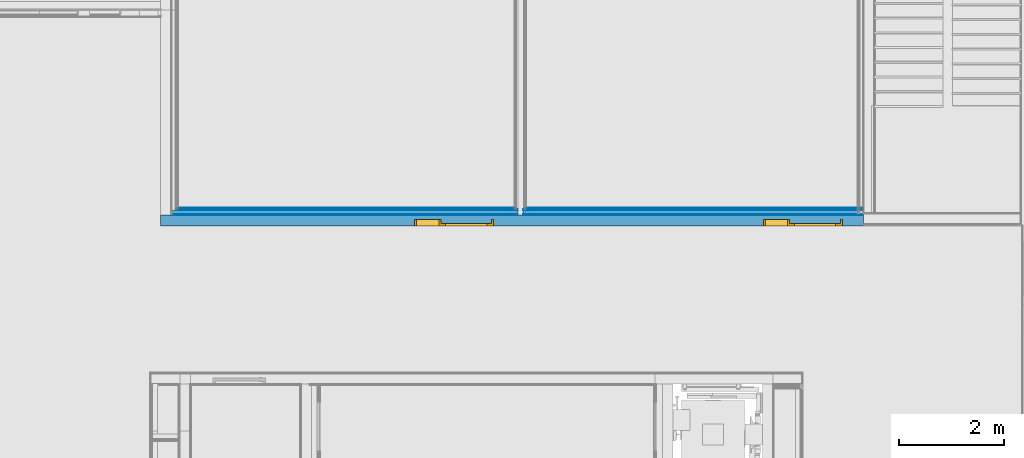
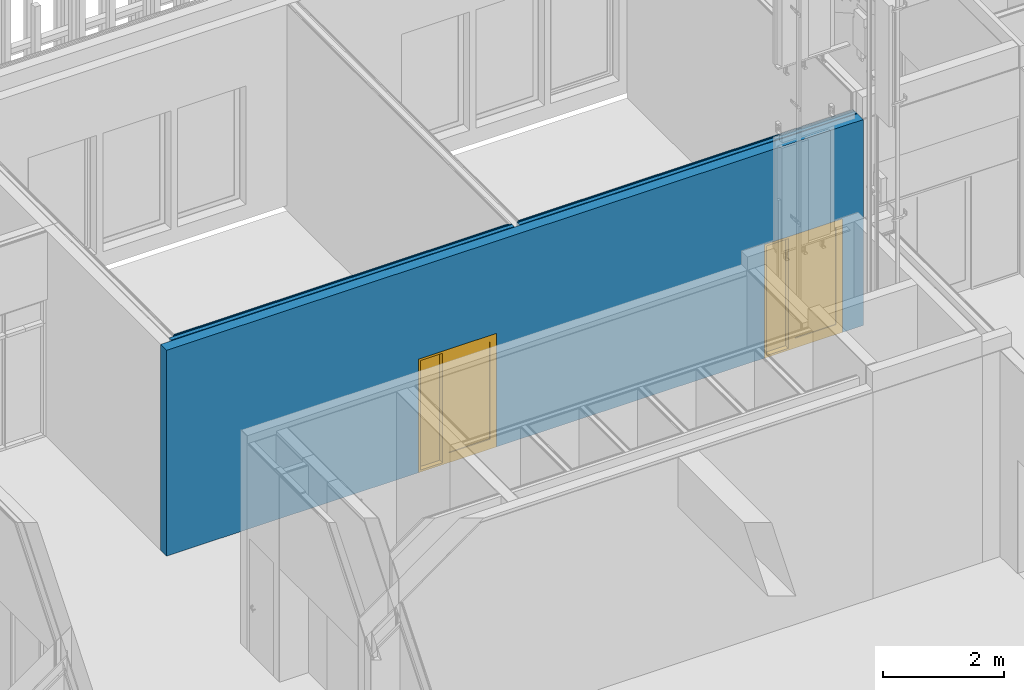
# One storey, part 116 of 260: 7 building element parts, 2 doors, 2 openings, 1 element without a shape of its own.
"""IFC2X3 building model written with IfcOpenShell, lengths in millimetres."""

import ifcopenshell
import ifcopenshell.guid

model = None  # the IFC model being written
_history = None  # IfcOwnerHistory: only IFC2X3 demands one
_inside = {}  # id of a spatial element -> (the spatial element, [elements in it])
_under = {}  # id of a project, library or spatial element -> (it, [spatial elements below it])
_declared = {}  # id of a project -> (the project, [libraries it declares])
_typed = {}  # id of a type object -> (the type object, [elements of that type])
_made_of = {}  # id of a material, layer set ... -> (it, [elements and type objects made of it])


def new_model(schema):
    """Start an empty IFC model of exactly this schema.

    Asked for "IFC4X3", IfcOpenShell would pick the latest addendum, in which some entities
    have other attributes; the version numbers below select the first issue.
    IFC2X3 requires an IfcOwnerHistory on every rooted entity: one is made here for all.
    """
    global model, _history
    if schema == "IFC4X3":
        model = ifcopenshell.file(schema_version=(4, 3, 0, 0))
    else:
        model = ifcopenshell.file(schema=schema)
    _inside.clear()
    _under.clear()
    _declared.clear()
    _typed.clear()
    _made_of.clear()
    _history = None
    if model.schema == "IFC2X3":
        org = make("IfcOrganization", Name="unknown")
        user = make(
            "IfcPersonAndOrganization",
            ThePerson=make("IfcPerson", FamilyName="unknown"),
            TheOrganization=org,
        )
        app = make(
            "IfcApplication",
            ApplicationDeveloper=org,
            Version="unknown",
            ApplicationFullName="unknown",
            ApplicationIdentifier="unknown",
        )
        _history = make(
            "IfcOwnerHistory",
            OwningUser=user,
            OwningApplication=app,
            ChangeAction="ADDED",
            CreationDate=0,
        )
    return model


def make(cls, **values):
    """One entity of the class cls with the attributes given. An attribute that is None is left unset."""
    return model.create_entity(
        cls, **{name: value for name, value in values.items() if value is not None}
    )


def entity(cls, *values):
    """Any entity or typed value of the class cls, its attributes in the order of the schema. None: left unset."""
    e = model.create_entity(cls)
    for i, value in enumerate(values):
        if value is not None:
            e[i] = value
    return e


def rooted(cls, **values):
    """An entity with a GlobalId (a new one), such as an element, a storey or a relation."""
    return make(cls, GlobalId=ifcopenshell.guid.new(), OwnerHistory=_history, **values)


def si_unit(unit_type, name, prefix=None):
    """IfcSIUnit, for example si_unit("LENGTHUNIT", "METRE", prefix="MILLI")."""
    return make("IfcSIUnit", UnitType=unit_type, Prefix=prefix, Name=name)


def converted_unit(unit_type, name, factor, base, dimensions=None, offset=None):
    """IfcConversionBasedUnit, such as the inch: factor (a typed value) times the base unit."""
    return make(
        "IfcConversionBasedUnit"
        if offset is None
        else "IfcConversionBasedUnitWithOffset",
        ConversionOffset=offset,
        Dimensions=None
        if dimensions is None
        else entity("IfcDimensionalExponents", *dimensions),
        UnitType=unit_type,
        Name=name,
        ConversionFactor=make(
            "IfcMeasureWithUnit", ValueComponent=factor, UnitComponent=base
        ),
    )


def derived_unit(unit_type, elements):
    """IfcDerivedUnit: a product of units, each with its exponent."""
    return make(
        "IfcDerivedUnit",
        Elements=[
            make("IfcDerivedUnitElement", Unit=unit, Exponent=power)
            for unit, power in elements
        ],
        UnitType=unit_type,
    )


def money_unit(currency):
    """IfcMonetaryUnit."""
    return make("IfcMonetaryUnit", Currency=currency)


def assignment(units):
    """IfcUnitAssignment: the units of a project."""
    return None if units is None else make("IfcUnitAssignment", Units=units)


def point(xyz):
    """IfcCartesianPoint."""
    return None if xyz is None else make("IfcCartesianPoint", Coordinates=xyz)


def direction(xyz):
    """IfcDirection."""
    return None if xyz is None else make("IfcDirection", DirectionRatios=xyz)


def frame(location, z_axis=None, x_axis=None):
    """IfcAxis2Placement3D, a coordinate frame: its origin and axes. An axis left out is left unset."""
    return make(
        "IfcAxis2Placement3D",
        Location=point(location),
        Axis=direction(z_axis),
        RefDirection=direction(x_axis),
    )


def origin_with_axes():
    """The frame at (0, 0, 0) with the z axis (0, 0, 1) and the x axis (1, 0, 0) written out."""
    return frame((0.0, 0.0, 0.0), z_axis=(0.0, 0.0, 1.0), x_axis=(1.0, 0.0, 0.0))


def place(relative_to, where):
    """IfcLocalPlacement: puts the frame where relative to a parent placement (None: the world)."""
    return make(
        "IfcLocalPlacement", PlacementRelTo=relative_to, RelativePlacement=where
    )


def context(
    kind, dimensions, precision=None, world=None, true_north=None, identifier=None
):
    """IfcGeometricRepresentationContext, for example the 3D "Model" context."""
    return make(
        "IfcGeometricRepresentationContext",
        ContextIdentifier=identifier,
        ContextType=kind,
        CoordinateSpaceDimension=dimensions,
        Precision=precision,
        WorldCoordinateSystem=world,
        TrueNorth=true_north,
    )


def subcontext(parent, identifier, kind, view, scale=None):
    """IfcGeometricRepresentationSubContext, for example "Body" below "Model"."""
    return make(
        "IfcGeometricRepresentationSubContext",
        ContextIdentifier=identifier,
        ContextType=kind,
        ParentContext=parent,
        TargetScale=scale,
        TargetView=view,
    )


def project(units=None, contexts=None):
    """IfcProject with its units and contexts."""
    return rooted(
        "IfcProject",
        Name="project",
        RepresentationContexts=contexts,
        UnitsInContext=assignment(units),
    )


def spatial(cls, under=None, at=None, **own):
    """A site, building, storey or space (cls), placed at a placement, below another one or the project."""
    s = rooted(cls, ObjectPlacement=at, **own)
    if under is not None:
        _under.setdefault(under.id(), (under, []))[1].append(s)
    return s


def faces_of(points, faces, orient=None, outer=None):
    """IfcFace entities. A face is a list of loops; a loop is a list of indices into points, from 0.

    orient and outer hold one flag for each loop. By default every Orientation is true, the
    first loop of a face is its IfcFaceOuterBound and the others are IfcFaceBound.
    """
    made = []
    for i, loops in enumerate(faces):
        bounds = []
        for j, loop in enumerate(loops):
            is_outer = j == 0 if outer is None else outer[i][j]
            bounds.append(
                make(
                    "IfcFaceOuterBound" if is_outer else "IfcFaceBound",
                    Bound=make("IfcPolyLoop", Polygon=[points[k] for k in loop]),
                    Orientation=True if orient is None else orient[i][j],
                )
            )
        made.append(make("IfcFace", Bounds=bounds))
    return made


def open_shell(faces, orient=None, outer=None):
    """The faces of one IfcOpenShell. surface_model builds it on its shared points."""
    return ("IfcOpenShell", faces, orient, outer)


def faceted_brep(points, faces, orient=None, outer=None, voids=None):
    """IfcFacetedBrep: a solid bounded by flat faces; with voids (closed shells), ...WithVoids."""
    shared = [point(p) for p in points]
    hull = make("IfcClosedShell", CfsFaces=faces_of(shared, faces, orient, outer))
    if voids is None:
        return make("IfcFacetedBrep", Outer=hull)
    return make(
        "IfcFacetedBrepWithVoids",
        Outer=hull,
        Voids=[
            make(cls, CfsFaces=faces_of(shared, fs, o, b)) for cls, fs, o, b in voids
        ],
    )


def surface_model(cls, points, shells):
    """IfcFaceBasedSurfaceModel or IfcShellBasedSurfaceModel (cls): surfaces that need not close."""
    shared = [point(p) for p in points]
    made = [make(c, CfsFaces=faces_of(shared, fs, o, b)) for c, fs, o, b in shells]
    if cls == "IfcFaceBasedSurfaceModel":
        return make(cls, FbsmFaces=made)
    return make(cls, SbsmBoundary=made)


def shape(context_of_items, identifier, shape_type, items):
    """IfcShapeRepresentation: the items that make up one representation, for example the "Body"."""
    return make(
        "IfcShapeRepresentation",
        ContextOfItems=context_of_items,
        RepresentationIdentifier=identifier,
        RepresentationType=shape_type,
        Items=items,
    )


def source(mapping_origin, context_of_items, identifier, shape_type, items):
    """IfcRepresentationMap: a shape defined once, which mapped items show again and again."""
    return make(
        "IfcRepresentationMap",
        MappingOrigin=mapping_origin,
        MappedRepresentation=shape(context_of_items, identifier, shape_type, items),
    )


def transform(
    local_origin,
    x_axis=None,
    y_axis=None,
    z_axis=None,
    scale=None,
    scale2=None,
    scale3=None,
    uniform=True,
):
    """IfcCartesianTransformationOperator3D, or its non-uniform kind. x_axis, y_axis, z_axis: its Axis1, 2, 3."""
    if uniform:
        return make(
            "IfcCartesianTransformationOperator3D",
            Axis1=direction(x_axis),
            Axis2=direction(y_axis),
            LocalOrigin=point(local_origin),
            Scale=scale,
            Axis3=direction(z_axis),
        )
    return make(
        "IfcCartesianTransformationOperator3DnonUniform",
        Axis1=direction(x_axis),
        Axis2=direction(y_axis),
        LocalOrigin=point(local_origin),
        Scale=scale,
        Axis3=direction(z_axis),
        Scale2=scale2,
        Scale3=scale3,
    )


def mapped(mapping_source, mapping_target):
    """IfcMappedItem: shows the shape of a source again, moved by a transform."""
    return make(
        "IfcMappedItem", MappingSource=mapping_source, MappingTarget=mapping_target
    )


def material(Name=None, Category=None):
    """IfcMaterial."""
    return make("IfcMaterial", Name=Name, Category=Category)


def made_of(thing, what):
    """Note that an element or type object is made of a material, layer set ...; save() writes the relation."""
    if what is not None:
        _made_of.setdefault(what.id(), (what, []))[1].append(thing)
    return thing


def type_object(cls, material=None, **own):
    """A type object (cls), such as IfcWallType, which elements share."""
    return made_of(rooted(cls, **own), material)


def element(
    cls,
    number,
    at=None,
    inside=None,
    cuts=None,
    type_object=None,
    material=None,
    context=None,
    identifier="Body",
    shape_type=None,
    held_by="IfcProductDefinitionShape",
    body=None,
    shapes=None,
    **own,
):
    """One element of the class cls, such as IfcWall. Its Tag is "e" and its number.

    at: its placement. inside: the storey or other place that contains it. cuts: it is an
    opening in that element (IfcRelVoidsElement). A single representation is given by context,
    identifier, shape_type and body (its items); several are given by shapes. held_by: the class
    of the entity that holds the representations. save() writes the other relations.
    """
    e = rooted(cls, Tag="e%d" % number, ObjectPlacement=at, **own)
    if body is not None:
        shapes = [shape(context, identifier, shape_type, body)]
    if shapes is not None:
        e.Representation = make(held_by, Representations=shapes)
    if inside is not None:
        _inside.setdefault(inside.id(), (inside, []))[1].append(e)
    if cuts is not None:
        rooted(
            "IfcRelVoidsElement", RelatingBuildingElement=cuts, RelatedOpeningElement=e
        )
    if type_object is not None:
        _typed.setdefault(type_object.id(), (type_object, []))[1].append(e)
    return made_of(e, material)


def fill(opening, filler):
    """IfcRelFillsElement: the door or window that sits in an opening."""
    return rooted(
        "IfcRelFillsElement",
        RelatingOpeningElement=opening,
        RelatedBuildingElement=filler,
    )


def aggregate(whole, parts):
    """IfcRelAggregates: a whole, such as a stair, and the parts it consists of."""
    return rooted("IfcRelAggregates", RelatingObject=whole, RelatedObjects=parts)


def save(model, path):
    """Write the relations noted so far, then the file.

    IfcRelAggregates (storeys below a building ...), IfcRelContainedInSpatialStructure (elements
    in a storey), IfcRelDefinesByType, IfcRelAssociatesMaterial and IfcRelDeclares: one each for
    every whole, place, type object, material and project.
    """
    for whole, parts in _under.values():
        aggregate(whole, parts)
    for where, things in _inside.values():
        rooted(
            "IfcRelContainedInSpatialStructure",
            RelatedElements=things,
            RelatingStructure=where,
        )
    for kind, things in _typed.values():
        rooted("IfcRelDefinesByType", RelatedObjects=things, RelatingType=kind)
    for what, things in _made_of.values():
        rooted("IfcRelAssociatesMaterial", RelatedObjects=things, RelatingMaterial=what)
    for by, libraries in _declared.values():
        rooted("IfcRelDeclares", RelatingContext=by, RelatedDefinitions=libraries)
    model.write(path)


model = new_model("IFC2X3")

# Units and contexts
model_context = context("Model", 3, precision=0.01, world=origin_with_axes(), true_north=direction((0.0, 1.0)))
body_context = subcontext(model_context, "Body", "Model", "MODEL_VIEW")
ifc_project = project(units=[si_unit("LENGTHUNIT", "METRE", prefix="MILLI"), si_unit("AREAUNIT", "SQUARE_METRE"), si_unit("VOLUMEUNIT", "CUBIC_METRE"), converted_unit("PLANEANGLEUNIT", "DEGREE", entity("IfcPlaneAngleMeasure", 0.0174532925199), si_unit("PLANEANGLEUNIT", "RADIAN"), dimensions=[0, 0, 0, 0, 0, 0, 0]), money_unit("EUR"), converted_unit("TIMEUNIT", "Year", entity("IfcTimeMeasure", 31556926.0), si_unit("TIMEUNIT", "SECOND"), dimensions=[0, 0, 1, 0, 0, 0, 0]), si_unit("MASSUNIT", "GRAM", prefix="KILO"), si_unit("THERMODYNAMICTEMPERATUREUNIT", "DEGREE_CELSIUS"), si_unit("LUMINOUSINTENSITYUNIT", "LUMEN"), si_unit("ENERGYUNIT", "JOULE", prefix="MEGA"), derived_unit("THERMALCONDUCTANCEUNIT", [(si_unit("POWERUNIT", "WATT"), 1), (si_unit("LENGTHUNIT", "METRE"), -1), (si_unit("THERMODYNAMICTEMPERATUREUNIT", "KELVIN"), -1)]), derived_unit("SPECIFICHEATCAPACITYUNIT", [(si_unit("ENERGYUNIT", "JOULE"), 1), (si_unit("MASSUNIT", "GRAM", prefix="KILO"), -1), (si_unit("THERMODYNAMICTEMPERATUREUNIT", "KELVIN"), -1)]), derived_unit("MASSDENSITYUNIT", [(si_unit("MASSUNIT", "GRAM", prefix="KILO"), 1), (si_unit("VOLUMEUNIT", "CUBIC_METRE"), -1)])], contexts=[model_context])

# Site, building, storey
site_placement = place(None, origin_with_axes())
site = spatial("IfcSite", under=ifc_project, at=site_placement, Name="Kolde pst 67a", CompositionType="ELEMENT")
building_placement = place(site_placement, origin_with_axes())
building = spatial("IfcBuilding", under=site, at=building_placement, Name="Riigigümnaasium", CompositionType="ELEMENT")
storey_placement = place(building_placement, origin_with_axes())
storey = spatial("IfcBuildingStorey", under=building, at=storey_placement, Name="1. korrus", CompositionType="ELEMENT", Elevation=0.0)

# Door
door_style = type_object("IfcDoorStyle", Name="Door with Sidelight on Side 2 25", ConstructionType="NOTDEFINED", OperationType="SINGLE_SWING_LEFT", ParameterTakesPrecedence=False, Sizeable=False)
shared_shape = source(origin_with_axes(), body_context, "Body", "SurfaceModel", [
    faceted_brep([(750.0, 0.0, 0.0), (750.0, -115.0, 0.0), (710.0, -115.0, 0.0), (710.0, 0.0, 0.0), (750.0, 0.0, 2260.0), (750.0, -115.0, 2260.0), (710.0, -115.0, 2260.0), (710.0, -115.0, 40.0), (710.0, 0.0, 40.0), (710.0, 0.0, 2260.0)], [[[0, 1, 2, 3]], [[4, 5, 1, 0]], [[1, 5, 6, 7, 2]], [[3, 2, 7, 8]], [[0, 3, 8, 9, 4]], [[9, 6, 5, 4]], [[8, 7, 6, 9]]]),
    faceted_brep([(250.0, -40.0, 0.0), (250.0, -115.0, 0.0), (250.0, -115.0, 2260.0), (250.0, -40.0, 2260.0), (262.0, -40.0, 0.0), (262.0, 0.0, 0.0), (290.0, 0.0, 0.0), (290.0, -115.0, 0.0), (290.0, -115.0, 40.0), (290.0, -115.0, 2260.0), (262.0, -40.0, 2260.0), (290.0, 0.0, 2260.0), (262.0, 0.0, 2260.0), (290.0, 0.0, 40.0)], [[[0, 1, 2, 3]], [[4, 5, 6, 7, 1, 0]], [[7, 8, 9, 2, 1]], [[10, 3, 2, 9, 11, 12]], [[10, 4, 0, 3]], [[12, 5, 4, 10]], [[12, 11, 13, 6, 5]], [[6, 13, 8, 7]], [[13, 11, 9, 8]]]),
    faceted_brep([(710.0, 0.0, 40.0), (710.0, -115.0, 40.0), (710.0, -115.0, 0.0), (710.0, 0.0, 0.0), (290.0, 0.0, 40.0), (290.0, -115.0, 40.0), (290.0, -115.0, 0.0), (290.0, 0.0, 0.0)], [[[0, 1, 2, 3]], [[4, 5, 1, 0]], [[1, 5, 6, 2]], [[3, 2, 6, 7]], [[0, 3, 7, 4]], [[7, 6, 5, 4]]]),
    faceted_brep([(-722.0, -40.0, 2260.0), (-722.0, 0.0, 2260.0), (-750.0, 0.0, 2260.0), (-750.0, -115.0, 2260.0), (-710.0, -115.0, 2260.0), (-710.0, -40.0, 2260.0), (-722.0, -40.0, 0.0), (-722.0, 0.0, 0.0), (-750.0, 0.0, 0.0), (-750.0, -115.0, 0.0), (-710.0, -115.0, 0.0), (-710.0, -40.0, 0.0)], [[[0, 1, 2, 3, 4, 5]], [[0, 6, 7, 1]], [[7, 8, 2, 1]], [[2, 8, 9, 3]], [[3, 9, 10, 4]], [[5, 4, 10, 11]], [[5, 11, 6, 0]], [[6, 11, 10, 9, 8, 7]]]),
    faceted_brep([(262.0, 0.0, 2272.0), (-722.0, 0.0, 2272.0), (-722.0, 0.0, 2260.0), (-750.0, 0.0, 2260.0), (-750.0, 0.0, 2300.0), (750.0, 0.0, 2300.0), (750.0, 0.0, 2260.0), (710.0, 0.0, 2260.0), (290.0, 0.0, 2260.0), (262.0, 0.0, 2260.0), (262.0, -40.0, 2272.0), (-722.0, -40.0, 2272.0), (-722.0, -40.0, 2260.0), (-710.0, -40.0, 2260.0), (-710.0, -115.0, 2260.0), (-750.0, -115.0, 2260.0), (-750.0, -115.0, 2300.0), (750.0, -115.0, 2300.0), (750.0, -115.0, 2260.0), (710.0, -115.0, 2260.0), (290.0, -115.0, 2260.0), (262.0, -40.0, 2260.0), (250.0, -115.0, 2260.0)], [[[0, 1, 2, 3, 4, 5, 6, 7, 8, 9]], [[0, 10, 11, 1]], [[1, 11, 12, 2]], [[12, 13, 14, 15, 3, 2]], [[4, 3, 15, 16]], [[5, 4, 16, 17]], [[6, 5, 17, 18]], [[7, 6, 18, 19]], [[8, 7, 19, 20]], [[21, 9, 8, 20, 22, 14, 13]], [[9, 21, 10, 0]], [[12, 11, 10, 21, 13]], [[14, 22, 20, 19, 18, 17, 16, 15]]]),
    faceted_brep([(-722.0, 0.0, 200.0), (-622.0, 0.0, 200.0), (-622.0, -40.0, 200.0), (-722.0, -40.0, 200.0), (-722.0, 0.0, 2172.0), (-622.0, 0.0, 2172.0), (-622.0, -40.0, 2172.0), (-722.0, -40.0, 2172.0)], [[[0, 1, 2, 3]], [[0, 4, 5, 1]], [[1, 5, 6, 2]], [[3, 2, 6, 7]], [[4, 0, 3, 7]], [[5, 4, 7, 6]]]),
    faceted_brep([(262.0, 0.0, 200.0), (262.0, 0.0, 2172.0), (262.0, -40.0, 2172.0), (262.0, -40.0, 200.0), (162.0, 0.0, 200.0), (162.0, 0.0, 2172.0), (162.0, -40.0, 2172.0), (162.0, -40.0, 200.0)], [[[0, 1, 2, 3]], [[0, 4, 5, 1]], [[1, 5, 6, 2]], [[3, 2, 6, 7]], [[4, 0, 3, 7]], [[5, 4, 7, 6]]]),
    faceted_brep([(-722.0, 0.0, 0.0), (262.0, 0.0, 0.0), (262.0, -40.0, 0.0), (-722.0, -40.0, 0.0), (-722.0, 0.0, 200.0), (-622.0, 0.0, 200.0), (162.0, 0.0, 200.0), (262.0, 0.0, 200.0), (262.0, -40.0, 200.0), (162.0, -40.0, 200.0), (-622.0, -40.0, 200.0), (-722.0, -40.0, 200.0)], [[[0, 1, 2, 3]], [[0, 4, 5, 6, 7, 1]], [[1, 7, 8, 2]], [[3, 2, 8, 9, 10, 11]], [[4, 0, 3, 11]], [[5, 4, 11, 10]], [[6, 5, 10, 9]], [[7, 6, 9, 8]]]),
    faceted_brep([(-722.0, 0.0, 2272.0), (-722.0, 0.0, 2172.0), (-722.0, -40.0, 2172.0), (-722.0, -40.0, 2272.0), (262.0, 0.0, 2272.0), (262.0, 0.0, 2172.0), (162.0, 0.0, 2172.0), (-622.0, 0.0, 2172.0), (-622.0, -40.0, 2172.0), (162.0, -40.0, 2172.0), (262.0, -40.0, 2172.0), (262.0, -40.0, 2272.0)], [[[0, 1, 2, 3]], [[0, 4, 5, 6, 7, 1]], [[1, 7, 8, 2]], [[3, 2, 8, 9, 10, 11]], [[4, 0, 3, 11]], [[5, 4, 11, 10]], [[6, 5, 10, 9]], [[7, 6, 9, 8]]]),
    surface_model("IfcShellBasedSurfaceModel", [(-622.0, -14.0, 200.0), (-622.0, -14.0, 2172.0), (162.0, -14.0, 2172.0), (162.0, -14.0, 200.0)], [open_shell([[[0, 1, 2, 3]]])]),
    surface_model("IfcShellBasedSurfaceModel", [(-622.0, -26.0, 200.0), (162.0, -26.0, 200.0), (162.0, -26.0, 2172.0), (-622.0, -26.0, 2172.0)], [open_shell([[[0, 1, 2, 3]]])]),
    surface_model("IfcShellBasedSurfaceModel", [(710.0, -91.0, 40.0), (290.0, -91.0, 40.0), (290.0, -91.0, 2260.0), (710.0, -91.0, 2260.0)], [open_shell([[[0, 1, 2, 3]]])]),
    surface_model("IfcShellBasedSurfaceModel", [(710.0, -103.0, 40.0), (710.0, -103.0, 2260.0), (290.0, -103.0, 2260.0), (290.0, -103.0, 40.0)], [open_shell([[[0, 1, 2, 3]]])]),
])
wall_placement = place(storey_placement, frame((36239.99923, 52580.0001843, 0.0), z_axis=(0.0, 0.0, 1.0), x_axis=(1.0, 0.0, 0.0)))
opening_1_placement = place(wall_placement, frame((5575.0, 0.0, 0.0), z_axis=(0.0, 0.0, 1.0), x_axis=(1.0, 0.0, 0.0)))
door_1_placement = place(opening_1_placement, frame((750.0, 0.0, 0.0), z_axis=(0.0, 0.0, 1.0), x_axis=(-1.0, 0.0, 0.0)))
door_1 = element("IfcDoor", 1, at=door_1_placement, inside=storey, type_object=door_style, Name="Siseuks", ObjectType="DOOR", OverallHeight=2300.0, OverallWidth=1500.0, context=body_context, shape_type="MappedRepresentation", body=[
    mapped(shared_shape, transform((750.0, 0.0, 0.0))),
])

opening_2_placement = place(wall_placement, frame((12200.0108255, 0.0, 0.0), z_axis=(0.0, 0.0, 1.0), x_axis=(1.0, 0.0, 0.0)))
door_2_placement = place(opening_2_placement, frame((750.0, 0.0, 0.0), z_axis=(0.0, 0.0, 1.0), x_axis=(-1.0, 0.0, 0.0)))
door_2 = element("IfcDoor", 2, at=door_2_placement, inside=storey, type_object=door_style, Name="Siseuks", ObjectType="DOOR", OverallHeight=2300.0, OverallWidth=1500.0, context=body_context, shape_type="MappedRepresentation", body=[
    mapped(shared_shape, transform((750.0, 0.0, 0.0))),
])

# Wall, opening
wall_type = type_object("IfcWallType", Name="SS-CLT-20/1_vill+krohv 340", PredefinedType="NOTDEFINED")
wall = element("IfcWall", 3, at=wall_placement, inside=storey, type_object=wall_type, Name="Sisesein")
opening_1 = element("IfcOpeningElement", 4, at=opening_1_placement, cuts=wall, Name="Siseuks", context=body_context, shape_type="Brep", body=[
    faceted_brep([(750.0, -680.0, 2300.0), (750.0, -680.0, 0.0), (750.0, 340.0, 0.0), (750.0, 340.0, 2300.0), (-750.0, -680.0, 2300.0), (-750.0, -680.0, 0.0), (-750.0, 340.0, 0.0), (-750.0, 340.0, 2300.0)], [[[0, 1, 2, 3]], [[0, 4, 5, 1]], [[1, 5, 6, 2]], [[3, 2, 6, 7]], [[4, 0, 3, 7]], [[5, 4, 7, 6]]]),
])

fill(opening_1, door_1)

# Opening
opening_2 = element("IfcOpeningElement", 5, at=opening_2_placement, cuts=wall, Name="Siseuks", context=body_context, shape_type="Brep", body=[
    faceted_brep([(750.0, -680.0, 2300.0), (750.0, -680.0, 0.0), (750.0, 340.0, 0.0), (750.0, 340.0, 2300.0), (-750.0, -680.0, 2300.0), (-750.0, -680.0, 0.0), (-750.0, 340.0, 0.0), (-750.0, 340.0, 2300.0)], [[[0, 1, 2, 3]], [[0, 4, 5, 1]], [[1, 5, 6, 2]], [[3, 2, 6, 7]], [[4, 0, 3, 7]], [[5, 4, 7, 6]]]),
])

fill(opening_2, door_2)

# Building element part
ifc_material_1 = material(Name="_VIIMISTLUSKIHT - viimistlus vastavalt SA osale")
building_element_part_1_placement = place(wall_placement, origin_with_axes())
building_element_part_1 = element("IfcBuildingElementPart", 6, at=building_element_part_1_placement, material=ifc_material_1, Name="_VIIMISTLUSKIHT - viimistlus vastavalt SA osale", context=body_context, shape_type="Brep", body=[
    faceted_brep([(11450.0108255, 340.0, 2300.0), (11450.0108255, 340.0, 0.0), (6940.0, 340.0, 0.0), (6940.0, 340.0, 4170.0), (13350.0108255, 340.0, 4170.0), (13350.0108255, 340.0, 0.0), (12950.0108255, 340.0, 0.0), (12950.0108255, 340.0, 2300.0), (11450.0108255, 330.0, 2300.0), (11450.0108255, 330.0, 0.0), (6940.0, 330.0, 0.0), (6940.0, 330.0, 4170.0), (13350.0108255, 330.0, 4170.0), (13350.0108255, 330.0, 0.0), (12950.0108255, 330.0, 0.0), (12950.0108255, 330.0, 2300.0)], [[[0, 1, 2, 3, 4, 5, 6, 7]], [[1, 0, 8, 9]], [[1, 9, 10, 2]], [[3, 2, 10, 11]], [[4, 3, 11, 12]], [[12, 13, 5, 4]], [[14, 6, 5, 13]], [[7, 6, 14, 15]], [[0, 7, 15, 8]], [[15, 14, 13, 12, 11, 10, 9, 8]]]),
    faceted_brep([(4825.0, 340.0, 2300.0), (4825.0, 340.0, 0.0), (330.0, 340.0, 0.0), (330.0, 340.0, 4170.0), (6730.0, 340.0, 4170.0), (6730.0, 340.0, 0.0), (6325.0, 340.0, 0.0), (6325.0, 340.0, 2300.0), (4825.0, 330.0, 2300.0), (4825.0, 330.0, 0.0), (330.0, 330.0, 0.0), (330.0, 330.0, 4170.0), (6730.0, 330.0, 4170.0), (6730.0, 330.0, 0.0), (6325.0, 330.0, 0.0), (6325.0, 330.0, 2300.0)], [[[0, 1, 2, 3, 4, 5, 6, 7]], [[1, 0, 8, 9]], [[1, 9, 10, 2]], [[3, 2, 10, 11]], [[4, 3, 11, 12]], [[12, 13, 5, 4]], [[14, 6, 5, 13]], [[7, 6, 14, 15]], [[0, 7, 15, 8]], [[15, 14, 13, 12, 11, 10, 9, 8]]]),
])

ifc_material_2 = material(Name="_PLAATMATERJAL - tuletõkkekipsplaat, Knauf Red GKF või samaväärne")
building_element_part_2_placement = place(wall_placement, origin_with_axes())
building_element_part_2 = element("IfcBuildingElementPart", 7, at=building_element_part_2_placement, material=ifc_material_2, Name="_PLAATMATERJAL - tuletõkkekipsplaat, Knauf Red GKF või samaväärne", context=body_context, shape_type="Brep", body=[
    faceted_brep([(11450.0108255, 330.0, 2300.0), (11450.0108255, 330.0, 0.0), (6925.0, 330.0, 0.0), (6925.0, 330.0, 4170.0), (13350.0108255, 330.0, 4170.0), (13350.0108255, 330.0, 0.0), (12950.0108255, 330.0, 0.0), (12950.0108255, 330.0, 2300.0), (11450.0108255, 315.0, 2300.0), (11450.0108255, 315.0, 0.0), (6925.0, 315.0, 0.0), (6925.0, 315.0, 4170.0), (13350.0108255, 315.0, 4170.0), (13350.0108255, 315.0, 0.0), (12950.0108255, 315.0, 0.0), (12950.0108255, 315.0, 2300.0)], [[[0, 1, 2, 3, 4, 5, 6, 7]], [[1, 0, 8, 9]], [[1, 9, 10, 2]], [[3, 2, 10, 11]], [[4, 3, 11, 12]], [[12, 13, 5, 4]], [[14, 6, 5, 13]], [[7, 6, 14, 15]], [[0, 7, 15, 8]], [[15, 14, 13, 12, 11, 10, 9, 8]]]),
    faceted_brep([(4825.0, 330.0, 2300.0), (4825.0, 330.0, 0.0), (315.0, 330.0, 0.0), (315.0, 330.0, 4170.0), (6745.0, 330.0, 4170.0), (6745.0, 330.0, 0.0), (6325.0, 330.0, 0.0), (6325.0, 330.0, 2300.0), (4825.0, 315.0, 2300.0), (4825.0, 315.0, 0.0), (315.0, 315.0, 0.0), (315.0, 315.0, 4170.0), (6745.0, 315.0, 4170.0), (6745.0, 315.0, 0.0), (6325.0, 315.0, 0.0), (6325.0, 315.0, 2300.0)], [[[0, 1, 2, 3, 4, 5, 6, 7]], [[1, 0, 8, 9]], [[1, 9, 10, 2]], [[3, 2, 10, 11]], [[4, 3, 11, 12]], [[12, 13, 5, 4]], [[14, 6, 5, 13]], [[7, 6, 14, 15]], [[0, 7, 15, 8]], [[15, 14, 13, 12, 11, 10, 9, 8]]]),
])

building_element_part_3_placement = place(wall_placement, origin_with_axes())
building_element_part_3 = element("IfcBuildingElementPart", 8, at=building_element_part_3_placement, material=ifc_material_2, Name="_PLAATMATERJAL - tuletõkkekipsplaat, Knauf Red GKF või samaväärne", context=body_context, shape_type="Brep", body=[
    faceted_brep([(11450.0108255, 315.0, 2300.0), (11450.0108255, 315.0, 0.0), (6885.0, 315.0, 0.0), (6885.0, 315.0, 4170.0), (13350.0108255, 315.0, 4170.0), (13350.0108255, 315.0, 0.0), (12950.0108255, 315.0, 0.0), (12950.0108255, 315.0, 2300.0), (11450.0108255, 300.0, 2300.0), (11450.0108255, 300.0, 0.0), (6885.0, 300.0, 0.0), (6885.0, 300.0, 4170.0), (13350.0108255, 300.0, 4170.0), (13350.0108255, 300.0, 0.0), (12950.0108255, 300.0, 0.0), (12950.0108255, 300.0, 2300.0)], [[[0, 1, 2, 3, 4, 5, 6, 7]], [[1, 0, 8, 9]], [[1, 9, 10, 2]], [[3, 2, 10, 11]], [[4, 3, 11, 12]], [[12, 13, 5, 4]], [[14, 6, 5, 13]], [[7, 6, 14, 15]], [[0, 7, 15, 8]], [[15, 14, 13, 12, 11, 10, 9, 8]]]),
    faceted_brep([(4825.0, 315.0, 2300.0), (4825.0, 315.0, 0.0), (300.0, 315.0, 0.0), (300.0, 315.0, 4170.0), (6785.0, 315.0, 4170.0), (6785.0, 315.0, 0.0), (6325.0, 315.0, 0.0), (6325.0, 315.0, 2300.0), (4825.0, 300.0, 2300.0), (4825.0, 300.0, 0.0), (300.0, 300.0, 0.0), (300.0, 300.0, 4170.0), (6785.0, 300.0, 4170.0), (6785.0, 300.0, 0.0), (6325.0, 300.0, 0.0), (6325.0, 300.0, 2300.0)], [[[0, 1, 2, 3, 4, 5, 6, 7]], [[1, 0, 8, 9]], [[1, 9, 10, 2]], [[3, 2, 10, 11]], [[4, 3, 11, 12]], [[12, 13, 5, 4]], [[14, 6, 5, 13]], [[7, 6, 14, 15]], [[0, 7, 15, 8]], [[15, 14, 13, 12, 11, 10, 9, 8]]]),
])

ifc_material_3 = material(Name="_PLAATMATERJAL - OSB3 plaat")
building_element_part_4_placement = place(wall_placement, origin_with_axes())
building_element_part_4 = element("IfcBuildingElementPart", 9, at=building_element_part_4_placement, material=ifc_material_3, Name="_PLAATMATERJAL - OSB3 plaat", context=body_context, shape_type="Brep", body=[
    faceted_brep([(11450.0108255, 300.0, 2300.0), (11450.0108255, 300.0, 0.0), (6885.0, 300.0, 0.0), (6885.0, 300.0, 4170.0), (13350.0108255, 300.0, 4170.0), (13350.0108255, 300.0, 0.0), (12950.0108255, 300.0, 0.0), (12950.0108255, 300.0, 2300.0), (11450.0108255, 290.0, 2300.0), (11450.0108255, 290.0, 0.0), (6885.0, 290.0, 0.0), (6885.0, 290.0, 4170.0), (13350.0108255, 290.0, 4170.0), (13350.0108255, 290.0, 0.0), (12950.0108255, 290.0, 0.0), (12950.0108255, 290.0, 2300.0)], [[[0, 1, 2, 3, 4, 5, 6, 7]], [[1, 0, 8, 9]], [[1, 9, 10, 2]], [[3, 2, 10, 11]], [[4, 3, 11, 12]], [[12, 13, 5, 4]], [[14, 6, 5, 13]], [[7, 6, 14, 15]], [[0, 7, 15, 8]], [[15, 14, 13, 12, 11, 10, 9, 8]]]),
    faceted_brep([(4825.0, 300.0, 2300.0), (4825.0, 300.0, 0.0), (290.0, 300.0, 0.0), (290.0, 300.0, 4170.0), (6785.0, 300.0, 4170.0), (6785.0, 300.0, 0.0), (6325.0, 300.0, 0.0), (6325.0, 300.0, 2300.0), (4825.0, 290.0, 2300.0), (4825.0, 290.0, 0.0), (290.0, 290.0, 0.0), (290.0, 290.0, 4170.0), (6785.0, 290.0, 4170.0), (6785.0, 290.0, 0.0), (6325.0, 290.0, 0.0), (6325.0, 290.0, 2300.0)], [[[0, 1, 2, 3, 4, 5, 6, 7]], [[1, 0, 8, 9]], [[1, 9, 10, 2]], [[3, 2, 10, 11]], [[4, 3, 11, 12]], [[12, 13, 5, 4]], [[14, 6, 5, 13]], [[7, 6, 14, 15]], [[0, 7, 15, 8]], [[15, 14, 13, 12, 11, 10, 9, 8]]]),
])

ifc_material_4 = material(Name="_KARKASS - metallkarkass CW 75/50/06 ja UW 75/40/06, samm 600, vahel mineraalvill, helineeldetegur αw = 1.0,  ISOVER ACOUSTIC 75mm või samaväärne")
building_element_part_5_placement = place(wall_placement, origin_with_axes())
building_element_part_5 = element("IfcBuildingElementPart", 10, at=building_element_part_5_placement, material=ifc_material_4, Name="_KARKASS - metallkarkass CW 75/50/06 ja UW 75/40/06, samm 600, vahel mineraalvill, helineeldetegur αw = 1.0,  ISOVER ACOUSTIC 75mm või samaväärne", context=body_context, shape_type="Brep", body=[
    faceted_brep([(11450.0108255, 290.0, 2300.0), (11450.0108255, 290.0, 0.0), (6885.0, 290.0, 0.0), (6885.0, 290.0, 4170.0), (13350.0108255, 290.0, 4170.0), (13350.0108255, 290.0, 0.0), (12950.0108255, 290.0, 0.0), (12950.0108255, 290.0, 2300.0), (11450.0108255, 215.0, 2300.0), (11450.0108255, 215.0, 0.0), (6885.0, 215.0, 0.0), (6885.0, 215.0, 4170.0), (13350.0108255, 215.0, 4170.0), (13350.0108255, 215.0, 0.0), (12950.0108255, 215.0, 0.0), (12950.0108255, 215.0, 2300.0)], [[[0, 1, 2, 3, 4, 5, 6, 7]], [[1, 0, 8, 9]], [[1, 9, 10, 2]], [[3, 2, 10, 11]], [[4, 3, 11, 12]], [[12, 13, 5, 4]], [[14, 6, 5, 13]], [[7, 6, 14, 15]], [[0, 7, 15, 8]], [[15, 14, 13, 12, 11, 10, 9, 8]]]),
    faceted_brep([(4825.0, 290.0, 2300.0), (4825.0, 290.0, 0.0), (215.0, 290.0, 0.0), (215.0, 290.0, 4170.0), (6785.0, 290.0, 4170.0), (6785.0, 290.0, 0.0), (6325.0, 290.0, 0.0), (6325.0, 290.0, 2300.0), (4825.0, 215.0, 2300.0), (4825.0, 215.0, 0.0), (215.0, 215.0, 0.0), (215.0, 215.0, 4170.0), (6785.0, 215.0, 4170.0), (6785.0, 215.0, 0.0), (6325.0, 215.0, 0.0), (6325.0, 215.0, 2300.0)], [[[0, 1, 2, 3, 4, 5, 6, 7]], [[1, 0, 8, 9]], [[1, 9, 10, 2]], [[3, 2, 10, 11]], [[4, 3, 11, 12]], [[12, 13, 5, 4]], [[14, 6, 5, 13]], [[7, 6, 14, 15]], [[0, 7, 15, 8]], [[15, 14, 13, 12, 11, 10, 9, 8]]]),
])

ifc_material_5 = material(Name="_ÕHKVAHE")
building_element_part_6_placement = place(wall_placement, origin_with_axes())
building_element_part_6 = element("IfcBuildingElementPart", 11, at=building_element_part_6_placement, material=ifc_material_5, Name="_ÕHKVAHE", context=body_context, shape_type="Brep", body=[
    faceted_brep([(11450.0108255, 215.0, 2300.0), (11450.0108255, 215.0, 0.0), (6885.0, 215.0, 0.0), (6885.0, 215.0, 4170.0), (13350.0108255, 215.0, 4170.0), (13350.0108255, 215.0, 0.0), (12950.0108255, 215.0, 0.0), (12950.0108255, 215.0, 2300.0), (11450.0108255, 200.0, 2300.0), (11450.0108255, 200.0, 0.0), (6885.0, 200.0, 0.0), (6885.0, 200.0, 4170.0), (13350.0108255, 200.0, 4170.0), (13350.0108255, 200.0, 0.0), (12950.0108255, 200.0, 0.0), (12950.0108255, 200.0, 2300.0)], [[[0, 1, 2, 3, 4, 5, 6, 7]], [[1, 0, 8, 9]], [[1, 9, 10, 2]], [[3, 2, 10, 11]], [[4, 3, 11, 12]], [[12, 13, 5, 4]], [[14, 6, 5, 13]], [[7, 6, 14, 15]], [[0, 7, 15, 8]], [[15, 14, 13, 12, 11, 10, 9, 8]]]),
    faceted_brep([(4825.0, 215.0, 2300.0), (4825.0, 215.0, 0.0), (200.0, 215.0, 0.0), (200.0, 215.0, 4170.0), (6785.0, 215.0, 4170.0), (6785.0, 215.0, 0.0), (6325.0, 215.0, 0.0), (6325.0, 215.0, 2300.0), (4825.0, 200.0, 2300.0), (4825.0, 200.0, 0.0), (200.0, 200.0, 0.0), (200.0, 200.0, 4170.0), (6785.0, 200.0, 4170.0), (6785.0, 200.0, 0.0), (6325.0, 200.0, 0.0), (6325.0, 200.0, 2300.0)], [[[0, 1, 2, 3, 4, 5, 6, 7]], [[1, 0, 8, 9]], [[1, 9, 10, 2]], [[3, 2, 10, 11]], [[4, 3, 11, 12]], [[12, 13, 5, 4]], [[14, 6, 5, 13]], [[7, 6, 14, 15]], [[0, 7, 15, 8]], [[15, 14, 13, 12, 11, 10, 9, 8]]]),
])

ifc_material_6 = material(Name="_KANDETARIND - CLT ristkihtliimpuit vastavalt EK osale, CLT paigaldusvuugid teibitakse ROTHOBLAAS teibiga")
building_element_part_7_placement = place(wall_placement, origin_with_axes())
building_element_part_7 = element("IfcBuildingElementPart", 12, at=building_element_part_7_placement, material=ifc_material_6, Name="_KANDETARIND - CLT ristkihtliimpuit vastavalt EK osale, CLT paigaldusvuugid teibitakse ROTHOBLAAS teibiga", context=body_context, shape_type="Brep", body=[
    faceted_brep([(11450.0108255, 200.0, 2300.0), (11450.0108255, 200.0, 0.0), (6325.0, 200.0, 0.0), (6325.0, 200.0, 2300.0), (4825.0, 200.0, 2300.0), (4825.0, 200.0, 0.0), (0.0, 200.0, 0.0), (0.0, 200.0, 4170.0), (13350.0108255, 200.0, 4170.0), (13350.0108255, 200.0, 0.0), (12950.0108255, 200.0, 0.0), (12950.0108255, 200.0, 2300.0), (11450.0108255, 0.0, 2300.0), (11450.0108255, 0.0, 0.0), (6325.0, 0.0, 0.0), (6325.0, 0.0, 2300.0), (4825.0, 0.0, 2300.0), (4825.0, 0.0, 0.0), (0.0, 0.0, 0.0), (0.0, 0.0, 4170.0), (13350.0108255, 0.0, 4170.0), (13350.0108255, 29.9999998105, 4170.0), (13350.0108255, 0.0, 0.0), (12950.0108255, 0.0, 0.0), (12950.0108255, 0.0, 2300.0)], [[[0, 1, 2, 3, 4, 5, 6, 7, 8, 9, 10, 11]], [[1, 0, 12, 13]], [[1, 13, 14, 2]], [[2, 14, 15, 3]], [[3, 15, 16, 4]], [[4, 16, 17, 5]], [[17, 18, 6, 5]], [[6, 18, 19, 7]], [[20, 21, 8, 7, 19]], [[8, 21, 20, 22, 9]], [[23, 10, 9, 22]], [[11, 10, 23, 24]], [[0, 11, 24, 12]], [[24, 23, 22, 20, 19, 18, 17, 16, 15, 14, 13, 12]]]),
])

aggregate(wall, [building_element_part_1, building_element_part_2, building_element_part_3, building_element_part_4, building_element_part_5, building_element_part_6, building_element_part_7])

save(model, "model.ifc")
